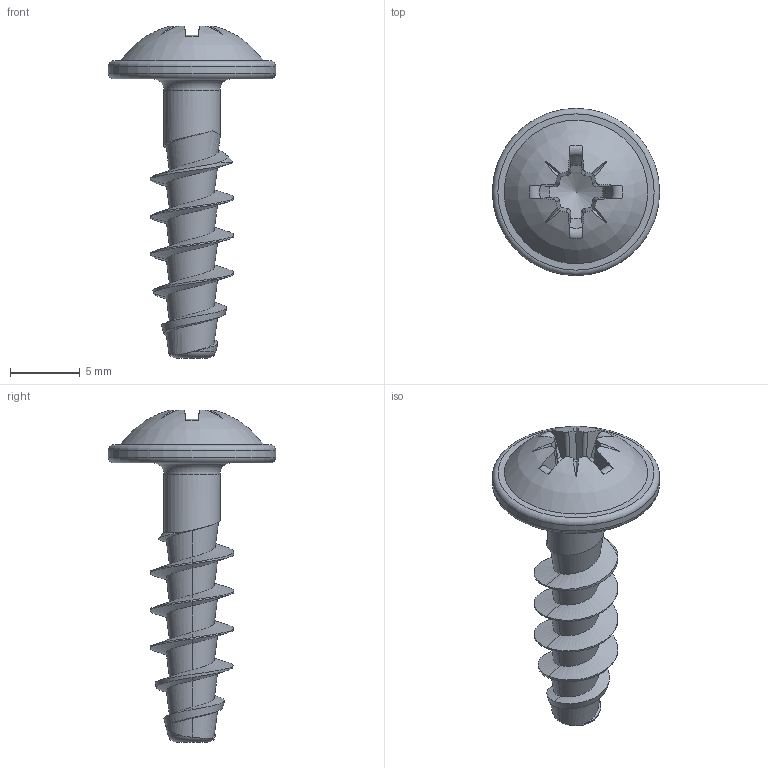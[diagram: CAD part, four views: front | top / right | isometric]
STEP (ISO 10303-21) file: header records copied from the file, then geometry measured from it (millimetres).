
FILE_DESCRIPTION(/* description */ (''),/* implementation_level */ '2;1');
FILE_NAME(/* name */ 'KN1031-Neu-STS-60x20-Z3.step',/* time_stamp */ '2017-10-12T14:12:23+02:00',/* author */ (''),/* organization */ (''),/* preprocessor_version */ 'ST-DEVELOPER v16',/* originating_system */ 'SIEMENS PLM Software NX 10.0',/* authorisation */ '');
FILE_SCHEMA (('AUTOMOTIVE_DESIGN { 1 0 10303 214 3 1 1 1 }'));
Length unit declared in the file: millimetre
Products named in the file (1): KN1031-Neu-STS-60x20-Z3
Bounding box: 12 x 12 x 23.79 mm (x, y, z)
Volume: 478.6 mm3; surface area: 677 mm2
Topology: 1 solids, 1 shells, 75 faces, 198 edges, 126 vertices
Faces by surface type: plane 27, bspline 20, cylinder 12, torus 8, cone 7, sphere 1
Full cylindrical faces by diameter (mm): 4.03 x1, 12 x1
Entity records: 3825 total; most frequent: CARTESIAN_POINT 2226, ORIENTED_EDGE 364, DIRECTION 255, EDGE_CURVE 182, VERTEX_POINT 120, AXIS2_PLACEMENT_3D 103, B_SPLINE_CURVE_WITH_KNOTS 85, EDGE_LOOP 83
